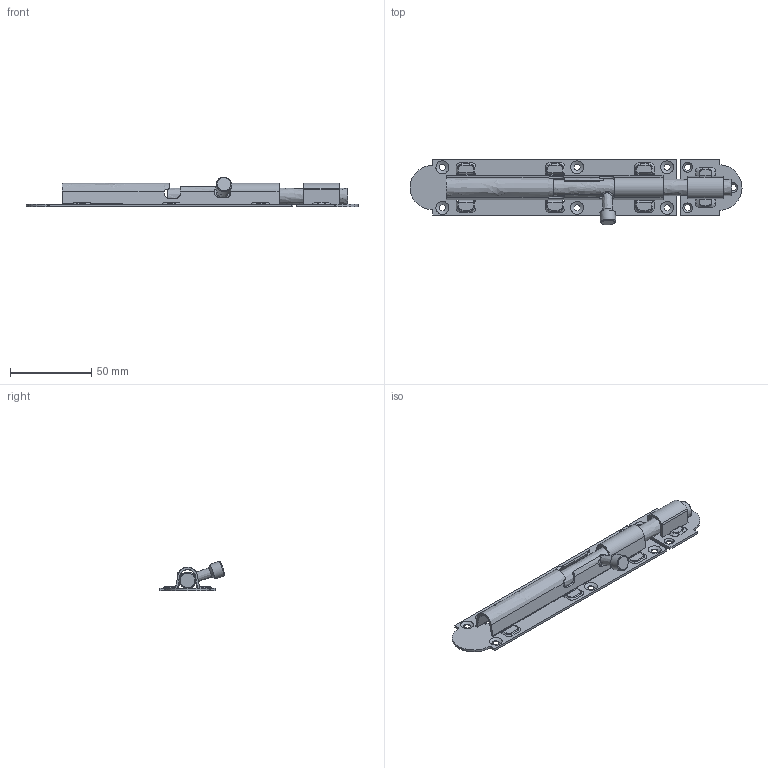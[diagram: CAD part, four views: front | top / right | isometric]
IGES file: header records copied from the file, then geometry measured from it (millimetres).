
Global section: file name: DR_ODS3-8; native system: Autodesk Inventor 2015; preprocessor: unknown; author: Administrator; date: 20170904.091652; units: millimetre
Bounding box: 204.68 x 40.46 x 18.32 mm (x, y, z)
Volume: 24448.9 mm3; surface area: 28164.2 mm2
Topology: 5 solids, 5 shells, 424 faces, 1086 edges, 672 vertices
Faces by surface type: bspline 424
